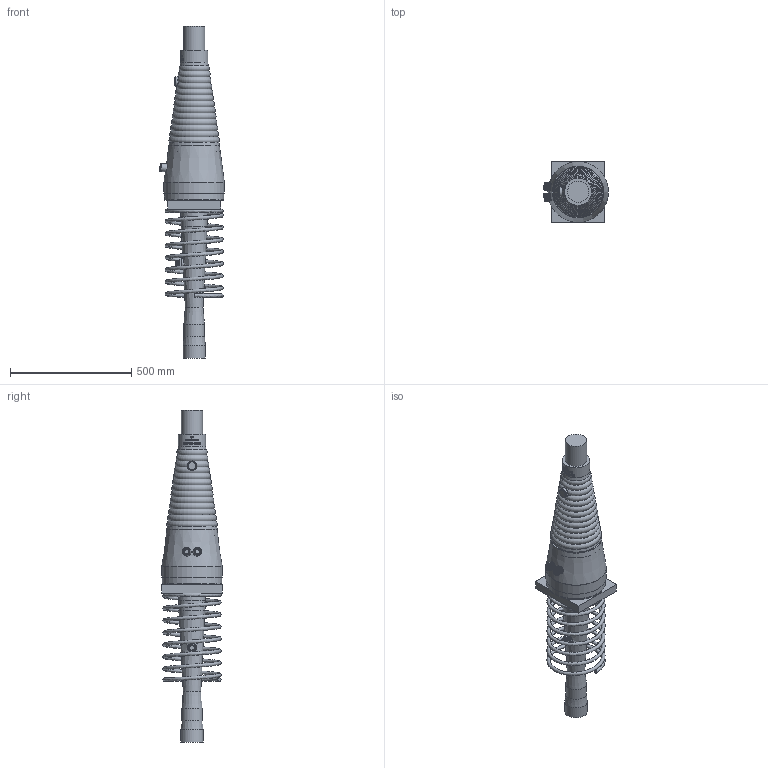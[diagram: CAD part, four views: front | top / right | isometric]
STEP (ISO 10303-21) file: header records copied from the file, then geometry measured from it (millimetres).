
FILE_DESCRIPTION(/* description */ (''),/* implementation_level */ '2;1');
FILE_NAME(/* name */ 'Z:\IDA\BBV\DE\410 Technik_Zulassungen-Verfahren\21 BBV - Hompage\Dateien für Vito Mediavilla\BBV LITZENSPANNVERFAHREN MIT VERBUND\FÜK - feste Übergreifungskopplung\Z-13.1-114.FÜK.009.00 L 9i FÜK-stp+ref.stp',/* time_stamp */ '2023-08-16T10:26:57+02:00',/* author */ ('klukas'),/* organization */ (''),/* preprocessor_version */ 'ST-DEVELOPER v18.1',/* originating_system */ 'Autodesk Inventor 2021',/* authorisation */ '');
FILE_SCHEMA (('AUTOMOTIVE_DESIGN { 1 0 10303 214 3 1 1 }'));
Products named in the file (1): Z-13.1-114.FÜK.009.00 L 9i FÜK
Bounding box: 267.8 x 250 x 1371.1 mm (x, y, z)
Volume: 28796166.6 mm3; surface area: 1464652.8 mm2
Topology: 10 solids, 10 shells, 371 faces, 931 edges, 614 vertices
Faces by surface type: bspline 140, plane 129, cylinder 79, torus 13, cone 10
Full cylindrical faces by diameter (mm): 20 x7, 23 x6, 27 x1, 28 x12, 30 x1, 32 x1, 33 x2, 38 x1, 39 x1, 85 x1, 88 x1, 92 x1, 107.558 x1, 109 x1, 112.278 x1, 145 x1, 160 x2, 213 x1, 245 x2, 250 x1
Entity records: 51417 total; most frequent: CARTESIAN_POINT 43182, ORIENTED_EDGE 1860, DIRECTION 1108, EDGE_CURVE 930, VERTEX_POINT 614, B_SPLINE_CURVE_WITH_KNOTS 435, EDGE_LOOP 410, STYLED_ITEM 381
